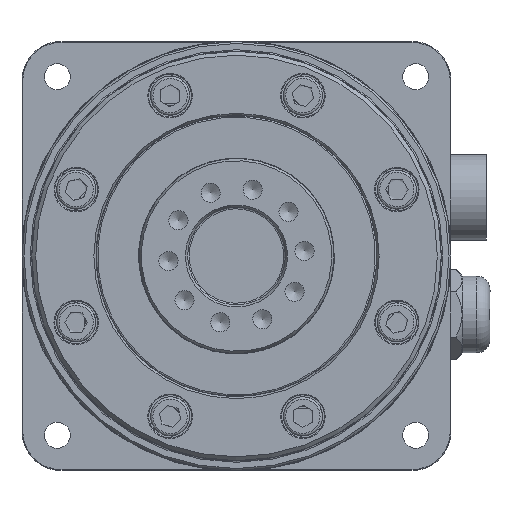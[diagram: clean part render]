
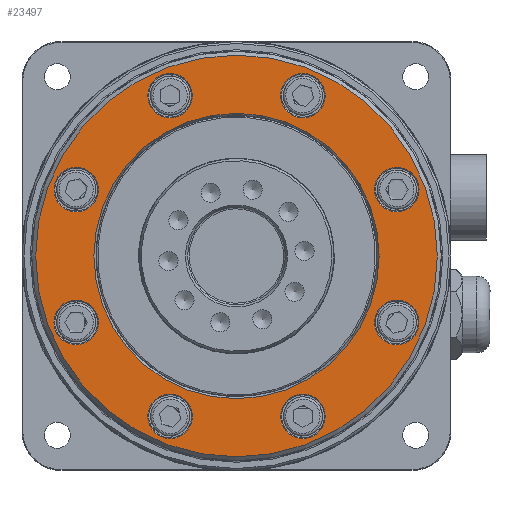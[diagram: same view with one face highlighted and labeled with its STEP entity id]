
A CAD part, left-side view. The second image highlights one B-rep face of the part: STEP entity #23497.
In plain terms, the highlighted planar face has unit normal (-1, 0, 0).
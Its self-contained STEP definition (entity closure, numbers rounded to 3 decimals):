
#475=FACE_BOUND('',#4510,.T.);
#476=FACE_BOUND('',#4511,.T.);
#477=FACE_BOUND('',#4512,.T.);
#478=FACE_BOUND('',#4513,.T.);
#479=FACE_BOUND('',#4514,.T.);
#480=FACE_BOUND('',#4515,.T.);
#481=FACE_BOUND('',#4516,.T.);
#482=FACE_BOUND('',#4517,.T.);
#483=FACE_BOUND('',#4518,.T.);
#2425=PLANE('',#25296);
#3071=FACE_OUTER_BOUND('',#4509,.T.);
#4509=EDGE_LOOP('',(#17142));
#4510=EDGE_LOOP('',(#17143));
#4511=EDGE_LOOP('',(#17144));
#4512=EDGE_LOOP('',(#17145));
#4513=EDGE_LOOP('',(#17146));
#4514=EDGE_LOOP('',(#17147));
#4515=EDGE_LOOP('',(#17148));
#4516=EDGE_LOOP('',(#17149));
#4517=EDGE_LOOP('',(#17150));
#4518=EDGE_LOOP('',(#17151));
#6072=CIRCLE('',#25250,5.7);
#6075=CIRCLE('',#25255,5.7);
#6078=CIRCLE('',#25260,5.7);
#6081=CIRCLE('',#25265,5.7);
#6084=CIRCLE('',#25270,5.7);
#6087=CIRCLE('',#25275,5.7);
#6091=CIRCLE('',#25281,5.7);
#6094=CIRCLE('',#25286,5.7);
#6096=CIRCLE('',#25289,36.577);
#6102=CIRCLE('',#25297,51.5);
#10561=VERTEX_POINT('',#37850);
#10564=VERTEX_POINT('',#37860);
#10567=VERTEX_POINT('',#37870);
#10570=VERTEX_POINT('',#37880);
#10573=VERTEX_POINT('',#37890);
#10576=VERTEX_POINT('',#37900);
#10579=VERTEX_POINT('',#37911);
#10582=VERTEX_POINT('',#37921);
#10585=VERTEX_POINT('',#37928);
#10590=VERTEX_POINT('',#37943);
#12973=EDGE_CURVE('',#10561,#10561,#6072,.T.);
#12978=EDGE_CURVE('',#10564,#10564,#6075,.T.);
#12983=EDGE_CURVE('',#10567,#10567,#6078,.T.);
#12988=EDGE_CURVE('',#10570,#10570,#6081,.T.);
#12993=EDGE_CURVE('',#10573,#10573,#6084,.T.);
#12998=EDGE_CURVE('',#10576,#10576,#6087,.T.);
#13004=EDGE_CURVE('',#10579,#10579,#6091,.T.);
#13009=EDGE_CURVE('',#10582,#10582,#6094,.T.);
#13012=EDGE_CURVE('',#10585,#10585,#6096,.T.);
#13019=EDGE_CURVE('',#10590,#10590,#6102,.T.);
#17142=ORIENTED_EDGE('',*,*,#13019,.F.);
#17143=ORIENTED_EDGE('',*,*,#13012,.F.);
#17144=ORIENTED_EDGE('',*,*,#13004,.F.);
#17145=ORIENTED_EDGE('',*,*,#12993,.F.);
#17146=ORIENTED_EDGE('',*,*,#12983,.F.);
#17147=ORIENTED_EDGE('',*,*,#12973,.F.);
#17148=ORIENTED_EDGE('',*,*,#12978,.F.);
#17149=ORIENTED_EDGE('',*,*,#12988,.F.);
#17150=ORIENTED_EDGE('',*,*,#12998,.F.);
#17151=ORIENTED_EDGE('',*,*,#13009,.F.);
#23497=ADVANCED_FACE('',(#3071,#475,#476,#477,#478,#479,#480,#481,#482,
#483),#2425,.T.);
#25250=AXIS2_PLACEMENT_3D('',#37852,#28805,#28806);
#25255=AXIS2_PLACEMENT_3D('',#37862,#28817,#28818);
#25260=AXIS2_PLACEMENT_3D('',#37872,#28829,#28830);
#25265=AXIS2_PLACEMENT_3D('',#37882,#28841,#28842);
#25270=AXIS2_PLACEMENT_3D('',#37892,#28853,#28854);
#25275=AXIS2_PLACEMENT_3D('',#37902,#28865,#28866);
#25281=AXIS2_PLACEMENT_3D('',#37913,#28879,#28880);
#25286=AXIS2_PLACEMENT_3D('',#37923,#28891,#28892);
#25289=AXIS2_PLACEMENT_3D('',#37930,#28898,#28899);
#25296=AXIS2_PLACEMENT_3D('',#37942,#28913,#28914);
#25297=AXIS2_PLACEMENT_3D('',#37944,#28915,#28916);
#28805=DIRECTION('center_axis',(-1.,0.,0.));
#28806=DIRECTION('ref_axis',(0.,-1.,0.));
#28817=DIRECTION('center_axis',(-1.,0.,0.));
#28818=DIRECTION('ref_axis',(0.,-0.707,0.707));
#28829=DIRECTION('center_axis',(-1.,0.,0.));
#28830=DIRECTION('ref_axis',(0.,0.,
1.));
#28841=DIRECTION('center_axis',(-1.,0.,0.));
#28842=DIRECTION('ref_axis',(0.,0.707,0.707));
#28853=DIRECTION('center_axis',(-1.,0.,0.));
#28854=DIRECTION('ref_axis',(0.,1.,0.));
#28865=DIRECTION('center_axis',(-1.,0.,0.));
#28866=DIRECTION('ref_axis',(0.,0.707,-0.707));
#28879=DIRECTION('center_axis',(-1.,0.,0.));
#28880=DIRECTION('ref_axis',(0.,0.,
-1.));
#28891=DIRECTION('center_axis',(-1.,0.,0.));
#28892=DIRECTION('ref_axis',(0.,-0.707,-0.707));
#28898=DIRECTION('center_axis',(-1.,0.,0.));
#28899=DIRECTION('ref_axis',(0.,0.,
1.));
#28913=DIRECTION('center_axis',(-1.,0.,0.));
#28914=DIRECTION('ref_axis',(0.,1.,0.));
#28915=DIRECTION('center_axis',(1.,0.,0.));
#28916=DIRECTION('ref_axis',(0.,0.,
1.));
#37850=CARTESIAN_POINT('',(-29.5,-11.329,-41.113));
#37852=CARTESIAN_POINT('Origin',(-29.5,-17.029,-41.113));
#37860=CARTESIAN_POINT('',(-29.5,-37.082,-21.06));
#37862=CARTESIAN_POINT('Origin',(-29.5,-41.113,-17.029));
#37870=CARTESIAN_POINT('',(-29.5,-41.113,11.329));
#37872=CARTESIAN_POINT('Origin',(-29.5,-41.113,17.029));
#37880=CARTESIAN_POINT('',(-29.5,-21.06,37.082));
#37882=CARTESIAN_POINT('Origin',(-29.5,-17.029,41.113));
#37890=CARTESIAN_POINT('',(-29.5,11.329,41.113));
#37892=CARTESIAN_POINT('Origin',(-29.5,17.029,41.113));
#37900=CARTESIAN_POINT('',(-29.5,37.082,21.06));
#37902=CARTESIAN_POINT('Origin',(-29.5,41.113,17.029));
#37911=CARTESIAN_POINT('',(-29.5,41.113,-11.329));
#37913=CARTESIAN_POINT('Origin',(-29.5,41.113,-17.029));
#37921=CARTESIAN_POINT('',(-29.5,21.06,-37.082));
#37923=CARTESIAN_POINT('Origin',(-29.5,17.029,-41.113));
#37928=CARTESIAN_POINT('',(-29.5,0.,-36.577));
#37930=CARTESIAN_POINT('Origin',(-29.5,0.,0.));
#37942=CARTESIAN_POINT('Origin',(-29.5,0.,-52.5));
#37943=CARTESIAN_POINT('',(-29.5,0.,-51.5));
#37944=CARTESIAN_POINT('Origin',(-29.5,0.,0.));
